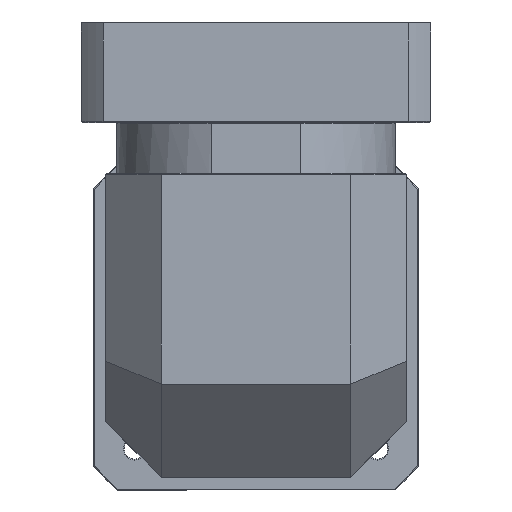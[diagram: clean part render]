
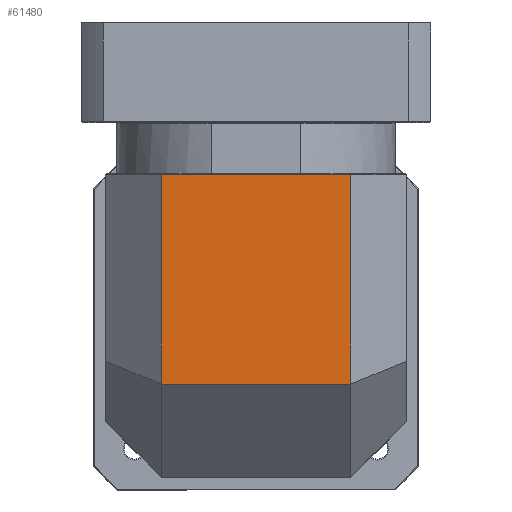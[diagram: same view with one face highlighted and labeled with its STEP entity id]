
A CAD part, top view. The second image highlights one B-rep face of the part: STEP entity #61480.
In plain terms, the highlighted planar face has unit normal (0, 0, 1).
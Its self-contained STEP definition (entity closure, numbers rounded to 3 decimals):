
#7262 = PLANE ( 'NONE',  #51175 ) ;
#7821 = VERTEX_POINT ( 'NONE', #84326 ) ;
#18824 = CARTESIAN_POINT ( 'NONE',  ( -141.956, 80.866, 95.461 ) ) ;
#20053 = FACE_OUTER_BOUND ( 'NONE', #88438, .T. ) ;
#27229 = LINE ( 'NONE', #100026, #46520 ) ;
#27688 = LINE ( 'NONE', #100057, #47106 ) ;
#31242 = ORIENTED_EDGE ( 'NONE', *, *, #34275, .F. ) ;
#34275 = EDGE_CURVE ( 'NONE', #7821, #120346, #84266, .T. ) ;
#36778 = DIRECTION ( 'NONE',  ( -1., 0., 0. ) ) ;
#45155 = LINE ( 'NONE', #84184, #100149 ) ;
#45219 = EDGE_CURVE ( 'NONE', #65160, #120346, #27688, .T. ) ;
#46520 = VECTOR ( 'NONE', #100941, 1000. ) ;
#47106 = VECTOR ( 'NONE', #36778, 1000. ) ;
#51175 = AXIS2_PLACEMENT_3D ( 'NONE', #89548, #68391, #69750 ) ;
#51802 = EDGE_CURVE ( 'NONE', #71949, #7821, #27229, .T. ) ;
#60187 = VECTOR ( 'NONE', #111986, 1000. ) ;
#61480 = ADVANCED_FACE ( 'NONE', ( #20053 ), #7262, .F. ) ;
#65160 = VERTEX_POINT ( 'NONE', #104520 ) ;
#68391 = DIRECTION ( 'NONE',  ( 0., 0., -1. ) ) ;
#69750 = DIRECTION ( 'NONE',  ( 1., 0., 0. ) ) ;
#71423 = ORIENTED_EDGE ( 'NONE', *, *, #110452, .F. ) ;
#71949 = VERTEX_POINT ( 'NONE', #107012 ) ;
#84184 = CARTESIAN_POINT ( 'NONE',  ( -39.956, 162.616, 95.461 ) ) ;
#84266 = LINE ( 'NONE', #18824, #60187 ) ;
#84326 = CARTESIAN_POINT ( 'NONE',  ( -141.956, 49.116, 95.461 ) ) ;
#86075 = ORIENTED_EDGE ( 'NONE', *, *, #45219, .T. ) ;
#88438 = EDGE_LOOP ( 'NONE', ( #71423, #86075, #31242, #104069 ) ) ;
#89548 = CARTESIAN_POINT ( 'NONE',  ( -171.956, 162.616, 95.461 ) ) ;
#95129 = CARTESIAN_POINT ( 'NONE',  ( -141.956, 162.116, 95.461 ) ) ;
#100026 = CARTESIAN_POINT ( 'NONE',  ( -171.956, 49.116, 95.461 ) ) ;
#100057 = CARTESIAN_POINT ( 'NONE',  ( -171.956, 162.116, 95.461 ) ) ;
#100149 = VECTOR ( 'NONE', #105464, 1000. ) ;
#100941 = DIRECTION ( 'NONE',  ( -1., 0., 0. ) ) ;
#104069 = ORIENTED_EDGE ( 'NONE', *, *, #51802, .F. ) ;
#104520 = CARTESIAN_POINT ( 'NONE',  ( -39.956, 162.116, 95.461 ) ) ;
#105464 = DIRECTION ( 'NONE',  ( 0., -1., 0. ) ) ;
#107012 = CARTESIAN_POINT ( 'NONE',  ( -39.956, 49.116, 95.461 ) ) ;
#110452 = EDGE_CURVE ( 'NONE', #65160, #71949, #45155, .T. ) ;
#111986 = DIRECTION ( 'NONE',  ( 0., 1., 0. ) ) ;
#120346 = VERTEX_POINT ( 'NONE', #95129 ) ;
